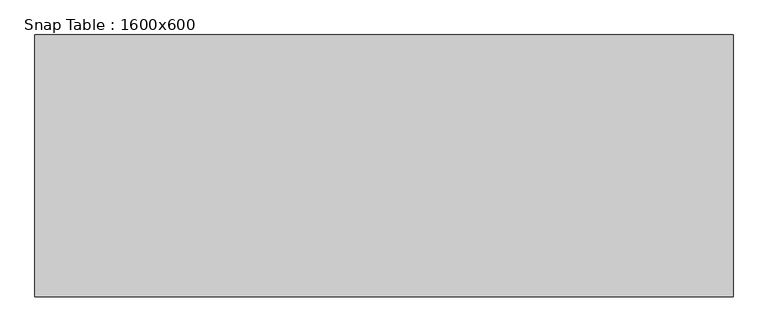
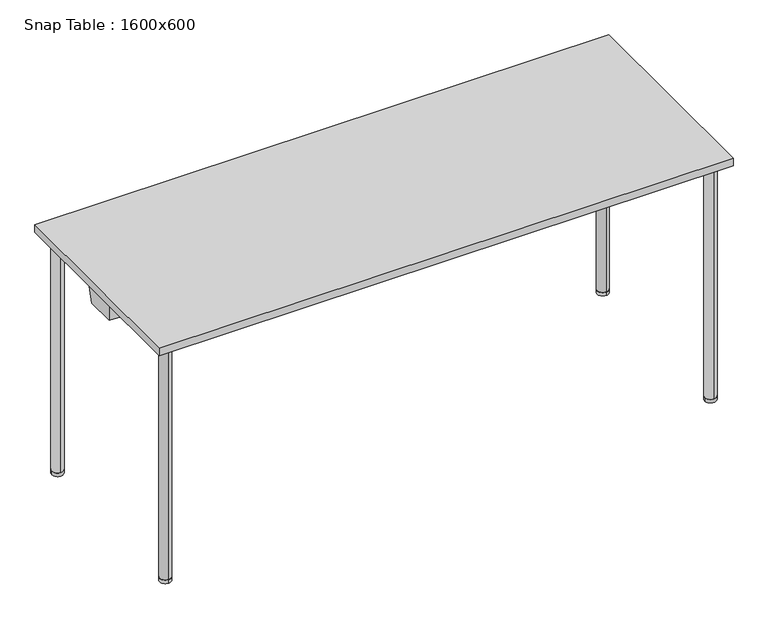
"""IFC4 building model written with IfcOpenShell, lengths in millimetres: furniture geometry, Snap Table : 1600x600."""

from ifc_helpers import new_model, si_unit, point, frame, frame_2d, origin, origin_with_axes, place, context, project, spatial, polyline, circle_curve, ellipse_curve, trimmed, segment, composite_curve, outline, extrude, faceted_brep, source, transform, mapped, element, save
from ifc_brep_helpers import plane_surface, cylinder_surface, revolved_surface, advanced_brep


def snap_table_1600x600_921db05d(model_context):
    return source(origin(), model_context, "Body", "SolidModel", [
        extrude(outline(composite_curve([segment(trimmed(circle_curve(frame_2d((760.0, -260.0)), 16.0), [point((776.0, -260.0))], [point((744.0, -260.0))], False, "CARTESIAN"), True, "CONTINUOUS"), segment(trimmed(circle_curve(frame_2d((760.0, -260.0)), 16.0), [point((744.0, -260.0))], [point((776.0, -260.0))], False, "CARTESIAN"), True, "CONTINUOUS")], self_intersect=False)), origin_with_axes(), (0.0, 0.0, 1.0), 10.0),
        extrude(outline(composite_curve([segment(trimmed(circle_curve(frame_2d((760.0, 260.0)), 16.0), [point((760.0, 244.0))], [point((760.0, 276.0))], False, "CARTESIAN"), True, "CONTINUOUS"), segment(trimmed(circle_curve(frame_2d((760.0, 260.0)), 16.0), [point((760.0, 276.0))], [point((760.0, 244.0))], False, "CARTESIAN"), True, "CONTINUOUS")], self_intersect=False)), origin_with_axes(), (0.0, 0.0, 1.0), 10.0),
        advanced_brep(
        [(760.0, -276.0, 10.0), (760.0, -244.0, 10.0), (760.0, -276.0, 689.0), (760.0, -244.0, 657.0), (760.0, 276.0, 689.0), (760.0, 244.0, 657.0), (760.0, 276.0, 10.0), (760.0, 244.0, 10.0)],
        [
            (0, 1, circle_curve(frame((760.0, -260.0, 10.0), z_axis=(0.0, 0.0, -1.0), x_axis=(0.0, 1.0, 0.0)), 16.0)),
            (1, 0, circle_curve(frame((760.0, -260.0, 10.0), z_axis=(0.0, 0.0, -1.0), x_axis=(0.0, 1.0, 0.0)), 16.0)),
            (0, 2),
            (2, 3, ellipse_curve(frame((760.0, -260.0, 673.0), z_axis=(0.0, -0.7071067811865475, -0.7071067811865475), x_axis=(0.0, 0.7071067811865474, -0.7071067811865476)), 22.627417, 16.0)),
            (3, 1),
            (3, 2, ellipse_curve(frame((760.0, -260.0, 673.0), z_axis=(0.0, -0.7071067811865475, -0.7071067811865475), x_axis=(0.0, 0.7071067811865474, -0.7071067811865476)), 22.627417, 16.0)),
            (2, 4),
            (4, 5, ellipse_curve(frame((760.0, 260.0, 673.0), z_axis=(0.0, -0.7071067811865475, 0.7071067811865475), x_axis=(0.0, -0.7071067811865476, -0.7071067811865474)), 22.627417, 16.0)),
            (5, 3),
            (5, 4, ellipse_curve(frame((760.0, 260.0, 673.0), z_axis=(0.0, -0.7071067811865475, 0.7071067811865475), x_axis=(0.0, -0.7071067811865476, -0.7071067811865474)), 22.627417, 16.0)),
            (6, 7, circle_curve(frame((760.0, 260.0, 10.0), z_axis=(0.0, 0.0, -1.0), x_axis=(0.0, -1.0, 0.0)), 16.0)),
            (7, 6, circle_curve(frame((760.0, 260.0, 10.0), z_axis=(0.0, 0.0, -1.0), x_axis=(0.0, -1.0, 0.0)), 16.0)),
            (4, 6),
            (7, 5),
        ],
        [
            plane_surface(frame((760.0, -260.0, 10.0), z_axis=(0.0, 0.0, -1.0), x_axis=(-1.0, 0.0, 0.0))),
            cylinder_surface(frame((760.0, -260.0, 10.0), z_axis=(0.0, 0.0, -1.0), x_axis=(0.0, 1.0, 0.0)), 16.0),
            cylinder_surface(frame((760.0, -260.0, 673.0), z_axis=(0.0, -1.0, 0.0), x_axis=(0.0, 0.0, -1.0)), 16.0),
            plane_surface(frame((760.0, 260.0, 10.0), z_axis=(0.0, 0.0, -1.0), x_axis=(-1.0, 0.0, 0.0))),
            cylinder_surface(frame((760.0, 260.0, 673.0), z_axis=(0.0, 0.0, 1.0), x_axis=(0.0, -1.0, 0.0)), 16.0),
        ],
        [
            (0, [[1, 2]]),
            (1, [[-1, 3, 4, 5]]),
            (1, [[-2, -5, 6, -3]]),
            (2, [[-4, 7, 8, 9]]),
            (2, [[-6, -9, 10, -7]]),
            (3, [[11, 12]]),
            (4, [[-8, 13, -12, 14]]),
            (4, [[-10, -14, -11, -13]]),
        ],
    ),
        extrude(outline(composite_curve([segment(trimmed(circle_curve(frame_2d((-760.0470276, 260.0)), 16.0), [point((-776.0470276, 260.0))], [point((-744.0470276, 260.0))], False, "CARTESIAN"), True, "CONTINUOUS"), segment(trimmed(circle_curve(frame_2d((-760.0470276, 260.0)), 16.0), [point((-744.0470276, 260.0))], [point((-776.0470276, 260.0))], False, "CARTESIAN"), True, "CONTINUOUS")], self_intersect=False)), origin_with_axes(), (0.0, 0.0, 1.0), 10.0),
        extrude(outline(composite_curve([segment(trimmed(circle_curve(frame_2d((-760.0470276, -260.0)), 16.0), [point((-760.0470276, -244.0))], [point((-760.0470276, -276.0))], False, "CARTESIAN"), True, "CONTINUOUS"), segment(trimmed(circle_curve(frame_2d((-760.0470276, -260.0)), 16.0), [point((-760.0470276, -276.0))], [point((-760.0470276, -244.0))], False, "CARTESIAN"), True, "CONTINUOUS")], self_intersect=False)), origin_with_axes(), (0.0, 0.0, 1.0), 10.0),
        advanced_brep(
        [(-760.0470276, 276.0, 10.0), (-760.0470276, 244.0, 10.0), (-760.0470276, 276.0, 689.0), (-760.0470276, 244.0, 657.0), (-760.0470276, -276.0, 689.0), (-760.0470276, -244.0, 657.0), (-760.0470276, -276.0, 10.0), (-760.0470276, -244.0, 10.0)],
        [
            (0, 1, circle_curve(frame((-760.0470276, 260.0, 10.0), z_axis=(0.0, 0.0, -1.0), x_axis=(0.0, -1.0, 0.0)), 16.0)),
            (1, 0, circle_curve(frame((-760.0470276, 260.0, 10.0), z_axis=(0.0, 0.0, -1.0), x_axis=(0.0, -1.0, 0.0)), 16.0)),
            (0, 2),
            (2, 3, ellipse_curve(frame((-760.0470276, 260.0, 673.0), z_axis=(0.0, 0.7071067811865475, -0.7071067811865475), x_axis=(0.0, -0.7071067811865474, -0.7071067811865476)), 22.627417, 16.0)),
            (3, 1),
            (3, 2, ellipse_curve(frame((-760.0470276, 260.0, 673.0), z_axis=(0.0, 0.7071067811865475, -0.7071067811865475), x_axis=(0.0, -0.7071067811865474, -0.7071067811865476)), 22.627417, 16.0)),
            (2, 4),
            (4, 5, ellipse_curve(frame((-760.0470276, -260.0, 673.0), z_axis=(0.0, 0.7071067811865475, 0.7071067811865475), x_axis=(0.0, 0.7071067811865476, -0.7071067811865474)), 22.627417, 16.0)),
            (5, 3),
            (5, 4, ellipse_curve(frame((-760.0470276, -260.0, 673.0), z_axis=(0.0, 0.7071067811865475, 0.7071067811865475), x_axis=(0.0, 0.7071067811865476, -0.7071067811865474)), 22.627417, 16.0)),
            (6, 7, circle_curve(frame((-760.0470276, -260.0, 10.0), z_axis=(0.0, 0.0, -1.0), x_axis=(0.0, 1.0, 0.0)), 16.0)),
            (7, 6, circle_curve(frame((-760.0470276, -260.0, 10.0), z_axis=(0.0, 0.0, -1.0), x_axis=(0.0, 1.0, 0.0)), 16.0)),
            (4, 6),
            (7, 5),
        ],
        [
            plane_surface(frame((-760.0470276, 260.0, 10.0), z_axis=(0.0, 0.0, -1.0), x_axis=(1.0, 0.0, 0.0))),
            cylinder_surface(frame((-760.0470276, 260.0, 10.0), z_axis=(0.0, 0.0, -1.0), x_axis=(0.0, -1.0, 0.0)), 16.0),
            cylinder_surface(frame((-760.0470276, 260.0, 673.0), z_axis=(0.0, 1.0, 0.0), x_axis=(0.0, 0.0, -1.0)), 16.0),
            plane_surface(frame((-760.0470276, -260.0, 10.0), z_axis=(0.0, 0.0, -1.0), x_axis=(1.0, 0.0, 0.0))),
            cylinder_surface(frame((-760.0470276, -260.0, 673.0), z_axis=(0.0, 0.0, 1.0), x_axis=(0.0, 1.0, 0.0)), 16.0),
        ],
        [
            (0, [[1, 2]]),
            (1, [[-1, 3, 4, 5]]),
            (1, [[-2, -5, 6, -3]]),
            (2, [[-4, 7, 8, 9]]),
            (2, [[-6, -9, 10, -7]]),
            (3, [[11, 12]]),
            (4, [[-8, 13, -12, 14]]),
            (4, [[-10, -14, -11, -13]]),
        ],
    ),
        extrude(outline(polyline([(800.0, 300.0), (800.0, -300.0), (-800.0, -300.0), (-800.0, 300.0), (800.0, 300.0)])), frame((0.0, 0.0, 698.0), z_axis=(0.0, 0.0, 1.0), x_axis=(1.0, 0.0, 0.0)), (0.0, 0.0, 1.0), 22.0),
        advanced_brep(
        [(-790.8110657, 42.2236058, 643.0), (-757.6910354, 44.5767873, 643.0), (-740.5708933, 36.0824003, 643.0), (740.5710292, 36.0824678, 643.0), (757.6910354, 44.5767873, 643.0), (790.8110657, 42.2236058, 643.0), (790.8110657, -42.2236058, 643.0), (757.6044607, -44.2417031, 643.0), (740.4018781, -36.0497649, 643.0), (-740.4020196, -36.0498323, 643.0), (-757.6044607, -44.2417031, 643.0), (-790.8110657, -42.2236058, 643.0), (-794.8110657, 48.9570516, 698.0), (-794.8110657, -48.9934252, 698.0), (-756.225892, -51.3383995, 698.0), (-734.6205129, -41.049832, 698.0), (734.6203726, -41.0497652, 698.0), (756.225892, -51.3383995, 698.0), (794.8110657, -48.9934252, 698.0), (794.8110657, 48.9570516, 698.0), (756.286594, 51.6942192, 698.0), (734.8989768, 41.0824675, 698.0), (-734.8988421, 41.0824006, 698.0), (-756.286594, 51.6942192, 698.0), (-757.2475737, -46.0789118, 657.2385232), (-776.0, -46.9489596, 673.0), (-756.4614069, -50.125999, 688.6037931), (-744.0, -41.9922101, 673.0), (757.2475737, -46.0789118, 657.2385232), (744.0, -41.9922101, 673.0), (756.4614069, -50.125999, 688.6037931), (776.0, -46.9489596, 673.0), (757.3278029, 46.4175782, 657.2247231), (776.0, 47.1037405, 673.0), (756.5261576, 50.4801582, 688.618336), (744.0, 42.0461233, 673.0), (-757.3278029, 46.4175782, 657.2247231), (-744.0, 42.0461233, 673.0), (-756.5261576, 50.4801582, 688.618336), (-776.0, 47.1037405, 673.0)],
        [
            (0, 1),
            (1, 2),
            (2, 3),
            (3, 4),
            (4, 5),
            (5, 6),
            (6, 7),
            (7, 8),
            (8, 9),
            (9, 10),
            (10, 11),
            (11, 0),
            (12, 13),
            (13, 14),
            (14, 15),
            (15, 16),
            (16, 17),
            (17, 18),
            (18, 19),
            (19, 20),
            (20, 21),
            (21, 22),
            (22, 23),
            (23, 12),
            (11, 13),
            (12, 0),
            (10, 24),
            (24, 25, ellipse_curve(frame((-760.0, -47.9213432, 673.0), z_axis=(0.06017662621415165, 0.9901710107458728, 0.12625427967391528), x_axis=(0.42602826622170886, -0.13986196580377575, 0.8938336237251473)), 16.1588249, 16.0)),
            (25, 26, ellipse_curve(frame((-760.0, -47.9213432, 673.0), z_axis=(0.06017662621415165, 0.9901710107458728, 0.12625427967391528), x_axis=(0.42602826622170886, -0.13986196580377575, 0.8938336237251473)), 16.1588249, 16.0)),
            (26, 14),
            (9, 15),
            (26, 27, ellipse_curve(frame((-760.0, -49.6114737, 673.0), z_axis=(-0.4265030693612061, 0.8956310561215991, 0.12625427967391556), x_axis=(-0.8587935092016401, -0.4447977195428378, 0.254221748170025)), 17.8644989, 16.0)),
            (27, 24, ellipse_curve(frame((-760.0, -49.6114737, 673.0), z_axis=(-0.4265030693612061, 0.8956310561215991, 0.12625427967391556), x_axis=(-0.8587935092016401, -0.4447977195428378, 0.254221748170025)), 17.8644989, 16.0)),
            (8, 16),
            (7, 28),
            (28, 29, ellipse_curve(frame((760.0, -49.6114737, 673.0), z_axis=(0.4265030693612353, 0.8956310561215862, 0.12625427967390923), x_axis=(0.8587935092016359, -0.4447977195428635, 0.2542217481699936)), 17.8644989, 16.0)),
            (29, 30, ellipse_curve(frame((760.0, -49.6114737, 673.0), z_axis=(0.4265030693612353, 0.8956310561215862, 0.12625427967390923), x_axis=(0.8587935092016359, -0.4447977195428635, 0.2542217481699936)), 17.8644989, 16.0)),
            (30, 17),
            (6, 18),
            (30, 31, ellipse_curve(frame((760.0, -47.9213432, 673.0), z_axis=(-0.06017662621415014, 0.9901710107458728, 0.12625427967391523), x_axis=(-0.42602826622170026, -0.13986196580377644, 0.8938336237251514)), 16.1588249, 16.0)),
            (31, 28, ellipse_curve(frame((760.0, -47.9213432, 673.0), z_axis=(-0.06017662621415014, 0.9901710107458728, 0.12625427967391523), x_axis=(-0.42602826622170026, -0.13986196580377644, 0.8938336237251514)), 16.1588249, 16.0)),
            (5, 19),
            (4, 32),
            (32, 33, ellipse_curve(frame((760.0, 48.2405422, 673.0), z_axis=(-0.0703043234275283, -0.9895034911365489, 0.12625427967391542), x_axis=(0.48139832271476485, -0.14450896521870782, -0.8645072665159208)), 16.1697257, 16.0)),
            (33, 34, ellipse_curve(frame((760.0, 48.2405422, 673.0), z_axis=(-0.0703043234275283, -0.9895034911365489, 0.12625427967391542), x_axis=(0.48139832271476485, -0.14450896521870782, -0.8645072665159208)), 16.1697257, 16.0)),
            (34, 20),
            (3, 21),
            (34, 35, ellipse_curve(frame((760.0, 49.9847369, 673.0), z_axis=(0.4409053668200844, -0.8886294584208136, 0.12625427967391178), x_axis=(-0.8542943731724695, -0.4586258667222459, -0.24462918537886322)), 18.005255, 16.0)),
            (35, 32, ellipse_curve(frame((760.0, 49.9847369, 673.0), z_axis=(0.4409053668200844, -0.8886294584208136, 0.12625427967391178), x_axis=(-0.8542943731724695, -0.4586258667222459, -0.24462918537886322)), 18.005255, 16.0)),
            (2, 22),
            (1, 36),
            (36, 37, ellipse_curve(frame((-760.0, 49.9847369, 673.0), z_axis=(-0.44090536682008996, -0.8886294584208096, 0.12625427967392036), x_axis=(0.8542943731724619, -0.4586258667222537, -0.24462918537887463)), 18.005255, 16.0)),
            (37, 38, ellipse_curve(frame((-760.0, 49.9847369, 673.0), z_axis=(-0.44090536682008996, -0.8886294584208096, 0.12625427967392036), x_axis=(0.8542943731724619, -0.4586258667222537, -0.24462918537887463)), 18.005255, 16.0)),
            (38, 23),
            (38, 39, ellipse_curve(frame((-760.0, 48.2405422, 673.0), z_axis=(0.07030432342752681, -0.9895034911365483, 0.12625427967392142), x_axis=(-0.48139832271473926, -0.14450896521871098, -0.8645072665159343)), 16.1697257, 16.0)),
            (39, 36, ellipse_curve(frame((-760.0, 48.2405422, 673.0), z_axis=(0.07030432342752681, -0.9895034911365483, 0.12625427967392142), x_axis=(-0.48139832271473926, -0.14450896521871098, -0.8645072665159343)), 16.1697257, 16.0)),
            (35, 29),
            (31, 33),
            (39, 25),
            (27, 37),
        ],
        [
            plane_surface(frame((-5e-07, 0.0612866, 643.0), z_axis=(0.0, 0.0, -1.0), x_axis=(0.0, -1.0, 0.0))),
            plane_surface(frame((-5e-07, 0.0586803, 698.0), z_axis=(0.0, 0.0, 1.0), x_axis=(0.0, -1.0, 0.0))),
            plane_surface(frame((-794.8110657, -0.0181868, 698.0), z_axis=(-0.9973658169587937, 0.0, -0.07253569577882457), x_axis=(0.0, 1.0, 0.0))),
            plane_surface(frame((-775.5184789, -50.1659123, 698.0), z_axis=(-0.06017662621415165, -0.9901710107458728, -0.12625427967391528), x_axis=(-0.9981583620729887, 0.06066204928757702, 0.0))),
            plane_surface(frame((-745.4232025, -46.1941158, 698.0), z_axis=(0.4265030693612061, -0.8956310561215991, -0.12625427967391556), x_axis=(-0.9028557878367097, -0.4299435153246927, 0.0))),
            plane_surface(frame((-7.01e-05, -41.0497986, 698.0), z_axis=(4.533442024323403e-08, -0.9958932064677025, -0.09053574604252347), x_axis=(-0.999999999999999, -4.552136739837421e-08, 0.0))),
            plane_surface(frame((745.4231323, -46.1940824, 698.0), z_axis=(-0.4265030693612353, -0.8956310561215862, -0.12625427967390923), x_axis=(-0.9028557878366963, 0.42994351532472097, 0.0))),
            plane_surface(frame((775.5184789, -50.1659123, 698.0), z_axis=(0.06017662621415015, -0.990171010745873, -0.12625427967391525), x_axis=(-0.9981583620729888, -0.06066204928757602, 0.0))),
            plane_surface(frame((794.8110657, -0.0181868, 698.0), z_axis=(0.997365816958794, 0.0, -0.07253569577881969), x_axis=(0.0, -1.0, 0.0))),
            plane_surface(frame((775.5488298, 50.3256354, 698.0), z_axis=(0.0703043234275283, 0.9895034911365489, -0.12625427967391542), x_axis=(0.9974854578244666, -0.07087144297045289, 0.0))),
            plane_surface(frame((745.5927854, 46.3883433, 698.0), z_axis=(-0.4409053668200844, 0.8886294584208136, -0.12625427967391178), x_axis=(0.8957977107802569, 0.44446199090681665, 0.0))),
            plane_surface(frame((6.73e-05, 41.082434, 698.0), z_axis=(-4.533603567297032e-08, 0.995893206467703, -0.09053574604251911), x_axis=(0.999999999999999, 4.552298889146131e-08, 0.0))),
            plane_surface(frame((-745.5927181, 46.3883099, 698.0), z_axis=(0.44090536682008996, 0.8886294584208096, -0.12625427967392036), x_axis=(0.8957977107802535, -0.4444619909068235, 0.0))),
            plane_surface(frame((-775.5488298, 50.3256354, 698.0), z_axis=(-0.07030432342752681, 0.9895034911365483, -0.12625427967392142), x_axis=(0.9974854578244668, 0.07087144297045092, 0.0))),
            revolved_surface(polyline([(776.0, -57.557562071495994, 673.0), (776.0, 58.242412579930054, 673.0)]), (760.0, 70.0, 673.0), (0.0, -1.0, 0.0)),
            revolved_surface(polyline([(-776.0, -57.55756207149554, 673.0), (-776.0, 58.24241257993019, 673.0)]), (-760.0, 70.0, 673.0), (0.0, -1.0, 0.0)),
        ],
        [
            (0, [[1, 2, 3, 4, 5, 6, 7, 8, 9, 10, 11, 12]]),
            (1, [[13, 14, 15, 16, 17, 18, 19, 20, 21, 22, 23, 24]]),
            (2, [[-12, 25, -13, 26]]),
            (3, [[-11, 27, 28, 29, 30, -14, -25]]),
            (4, [[-10, 31, -15, -30, 32, 33, -27]]),
            (5, [[-9, 34, -16, -31]]),
            (6, [[-8, 35, 36, 37, 38, -17, -34]]),
            (7, [[-7, 39, -18, -38, 40, 41, -35]]),
            (8, [[-6, 42, -19, -39]]),
            (9, [[-5, 43, 44, 45, 46, -20, -42]]),
            (10, [[-4, 47, -21, -46, 48, 49, -43]]),
            (11, [[-3, 50, -22, -47]]),
            (12, [[-2, 51, 52, 53, 54, -23, -50]]),
            (13, [[-1, -26, -24, -54, 55, 56, -51]]),
            (14, [[57, -36, -41, 58, -44, -49]]),
            (14, [[-57, -48, -45, -58, -40, -37]]),
            (15, [[59, -28, -33, 60, -52, -56]]),
            (15, [[-59, -55, -53, -60, -32, -29]]),
        ],
    ),
        faceted_brep([(730.1271057, 182.1409864, 643.0), (730.1271057, 227.0366315, 643.0), (741.3990784, 227.0366315, 643.0), (741.3990784, 182.1409864, 643.0), (726.2186584, 178.0138349, 688.0), (744.2631531, 178.0138349, 688.0), (744.2631531, 231.163783, 688.0), (726.2186584, 231.163783, 688.0)], [[[0, 1, 2, 3]], [[4, 5, 6, 7]], [[5, 4, 0, 3]], [[6, 5, 3, 2]], [[7, 6, 2, 1]], [[4, 7, 1, 0]]]),
        extrude(outline(polyline([(726.2186584, 231.163783), (777.86026, 231.163783), (777.86026, 178.0138349), (726.2186584, 178.0138349), (726.2186584, 231.163783)])), frame((0.0, 0.0, 688.0), z_axis=(0.0, 0.0, 1.0), x_axis=(1.0, 0.0, 0.0)), (0.0, 0.0, 1.0), 10.0),
        faceted_brep([(730.1271057, -182.1409864, 643.0), (741.3990784, -182.1409864, 643.0), (741.3990784, -227.0366315, 643.0), (730.1271057, -227.0366315, 643.0), (726.2186584, -178.0138349, 688.0), (726.2186584, -231.163783, 688.0), (744.2631531, -231.163783, 688.0), (744.2631531, -178.0138349, 688.0)], [[[0, 1, 2, 3]], [[4, 5, 6, 7]], [[4, 7, 1, 0]], [[7, 6, 2, 1]], [[6, 5, 3, 2]], [[5, 4, 0, 3]]]),
        extrude(outline(polyline([(726.2186584, -231.163783), (726.2186584, -178.0138349), (777.86026, -178.0138349), (777.86026, -231.163783), (726.2186584, -231.163783)])), frame((0.0, 0.0, 688.0), z_axis=(0.0, 0.0, 1.0), x_axis=(1.0, 0.0, 0.0)), (0.0, 0.0, 1.0), 10.0),
        faceted_brep([(-730.1271057, 182.1409864, 643.0), (-741.3990784, 182.1409864, 643.0), (-741.3990784, 227.0366315, 643.0), (-730.1271057, 227.0366315, 643.0), (-726.2186584, 178.0138349, 688.0), (-726.2186584, 231.163783, 688.0), (-744.2631531, 231.163783, 688.0), (-744.2631531, 178.0138349, 688.0)], [[[0, 1, 2, 3]], [[4, 5, 6, 7]], [[4, 7, 1, 0]], [[7, 6, 2, 1]], [[6, 5, 3, 2]], [[5, 4, 0, 3]]]),
        extrude(outline(polyline([(-726.2186584, 231.163783), (-726.2186584, 178.0138349), (-777.86026, 178.0138349), (-777.86026, 231.163783), (-726.2186584, 231.163783)])), frame((0.0, 0.0, 688.0), z_axis=(0.0, 0.0, 1.0), x_axis=(1.0, 0.0, 0.0)), (0.0, 0.0, 1.0), 10.0),
        faceted_brep([(-730.1271057, -182.1409864, 643.0), (-730.1271057, -227.0366315, 643.0), (-741.3990784, -227.0366315, 643.0), (-741.3990784, -182.1409864, 643.0), (-726.2186584, -178.0138349, 688.0), (-744.2631531, -178.0138349, 688.0), (-744.2631531, -231.163783, 688.0), (-726.2186584, -231.163783, 688.0)], [[[0, 1, 2, 3]], [[4, 5, 6, 7]], [[5, 4, 0, 3]], [[6, 5, 3, 2]], [[7, 6, 2, 1]], [[4, 7, 1, 0]]]),
        extrude(outline(polyline([(-726.2186584, -231.163783), (-777.86026, -231.163783), (-777.86026, -178.0138349), (-726.2186584, -178.0138349), (-726.2186584, -231.163783)])), frame((0.0, 0.0, 688.0), z_axis=(0.0, 0.0, 1.0), x_axis=(1.0, 0.0, 0.0)), (0.0, 0.0, 1.0), 10.0),
    ])


if __name__ == "__main__":
    model = new_model("IFC4")
    model_context = context("Model", 3, world=origin())
    ifc_project = project(units=[si_unit("LENGTHUNIT", "METRE", prefix="MILLI")], contexts=[model_context])
    site = spatial("IfcSite", under=ifc_project)
    building = spatial("IfcBuilding", under=site)
    placement = place(None, origin())
    snap_table_1600x600_shape = snap_table_1600x600_921db05d(model_context)
    element("IfcFurniture", 1, ObjectType="Snap Table : 1600x600", at=placement, inside=building, context=model_context, shape_type="MappedRepresentation", body=[
        mapped(snap_table_1600x600_shape, transform((0.0, 0.0, 0.0), x_axis=(1.0, 0.0, 0.0), y_axis=(0.0, 1.0, 0.0), z_axis=(0.0, 0.0, 1.0))),
    ])
    save(model, "model.ifc")
